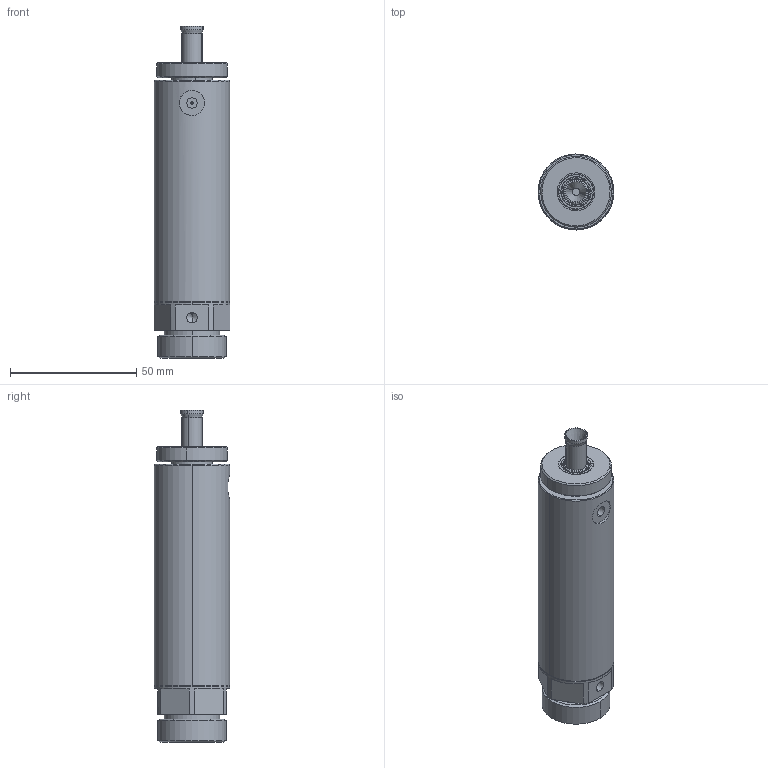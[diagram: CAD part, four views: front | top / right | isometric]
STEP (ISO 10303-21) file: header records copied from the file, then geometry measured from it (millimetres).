
FILE_DESCRIPTION (( 'STEP AP203' ), '1' );
FILE_NAME ('GNS-3050埋入气缸.STEP', '2024-07-09T03:15:56', ( '微软用户' ), ( '微软中国' ), 'SwSTEP 2.0', 'SolidWorks 2018', '' );
FILE_SCHEMA (( 'CONFIG_CONTROL_DESIGN' ));
Length unit declared in the file: millimetre
Products named in the file (12): GNS-2040 綴裔啣; GFR30-95 后盖派克O型圈; GNS-2040 活塞; EL 1016 N3580 派克密封-防尘圈; GNS-3050活塞杆; EL 1060 N3580 派克密封-防尘圈; MDZB10-10; PZ 2518 N3571 活塞密封件; GNS-2040 芢昜輸-隅秶; GNS-3050粣裝-隅秶; GNS-3050埋入气缸; GNS-3050 詰芠
Assembly tree (11 placements, depth 2):
  GNS-3050埋入气缸
    GNS-3050 詰芠
    GNS-2040 綴裔啣
    GNS-2040 活塞
    GNS-3050活塞杆
    MDZB10-10
    GFR30-95 后盖派克O型圈
    EL 1016 N3580 派克密封-防尘圈
    EL 1060 N3580 派克密封-防尘圈
    PZ 2518 N3571 活塞密封件
    GNS-2040 芢昜輸-隅秶
    GNS-3050粣裝-隅秶
Bounding box: 30 x 30 x 131.5 mm (x, y, z)
Volume: 63500.1 mm3; surface area: 42413.4 mm2
Topology: 11 solids, 11 shells, 392 faces, 811 edges, 482 vertices
Faces by surface type: cylinder 128, cone 114, plane 80, torus 70
Entity records: 11861 total; most frequent: DIRECTION 2133, CARTESIAN_POINT 1832, ORIENTED_EDGE 1618, AXIS2_PLACEMENT_3D 931, EDGE_CURVE 809, CIRCLE 525, VERTEX_POINT 482, EDGE_LOOP 457
